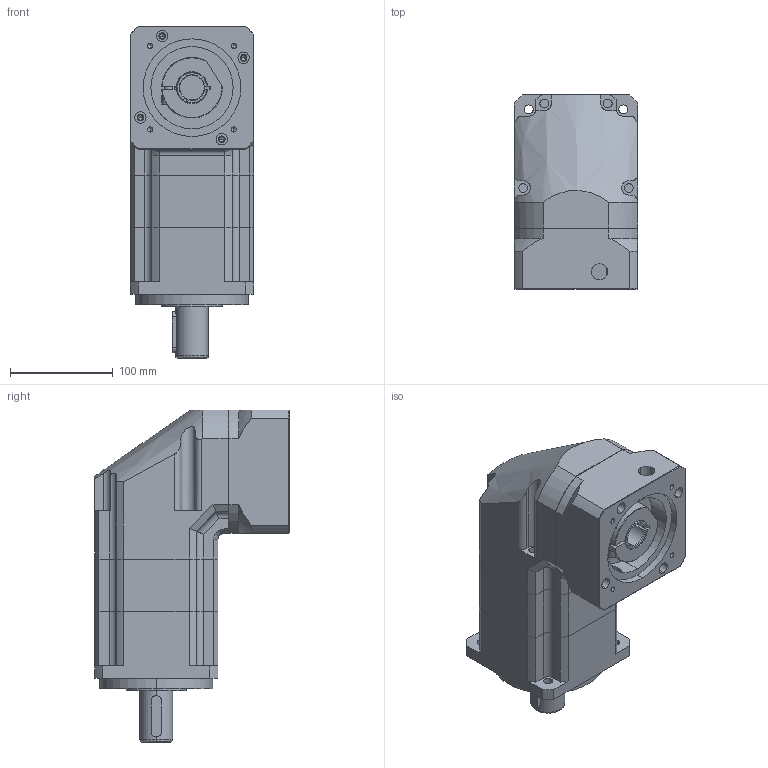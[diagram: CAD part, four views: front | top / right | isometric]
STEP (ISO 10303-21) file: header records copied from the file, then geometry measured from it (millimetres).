
FILE_DESCRIPTION (( 'STEP AP203' ), '1' );
FILE_NAME ('PAMG120-L2-24-95-115.STEP', '2024-08-17T08:39:14', ( 'Windows User' ), ( 'P R C' ), 'SwSTEP 2.0', 'SolidWorks 2016', '' );
FILE_SCHEMA (( 'CONFIG_CONTROL_DESIGN' ));
Length unit declared in the file: millimetre
Products named in the file (9): PAMG120-LJ党蜊唳95-115-M6-LR58; PAMG120-L2-24-95-115; PAMG120-HCZ  24謂; PAMG120   坶踡遠_22; GB／T70．1-2000   内六角圆柱头螺钉M8×20; 邧埴瑩   10x8x40; PAMG120-齿圈; PAMG120-本体齿圈; PAMG120-XT
Assembly tree (8 placements, depth 2):
  PAMG120-L2-24-95-115
    PAMG120-HCZ  24謂
    PAMG120   坶踡遠_22
    GB／T70．1-2000   内六角圆柱头螺钉M8×20
    邧埴瑩   10x8x40
    PAMG120-齿圈
    PAMG120-本体齿圈
    PAMG120-XT
    PAMG120-LJ党蜊唳95-115-M6-LR58
Bounding box: 120 x 189.5 x 323 mm (x, y, z)
Volume: 3865752.1 mm3; surface area: 307986.2 mm2
Topology: 8 solids, 8 shells, 984 faces, 2606 edges, 1709 vertices
Faces by surface type: plane 585, cylinder 184, bspline 162, cone 53
Entity records: 37876 total; most frequent: CARTESIAN_POINT 13443, ORIENTED_EDGE 5176, DIRECTION 4245, EDGE_CURVE 2588, VECTOR 1791, LINE 1791, VERTEX_POINT 1709, AXIS2_PLACEMENT_3D 1227
